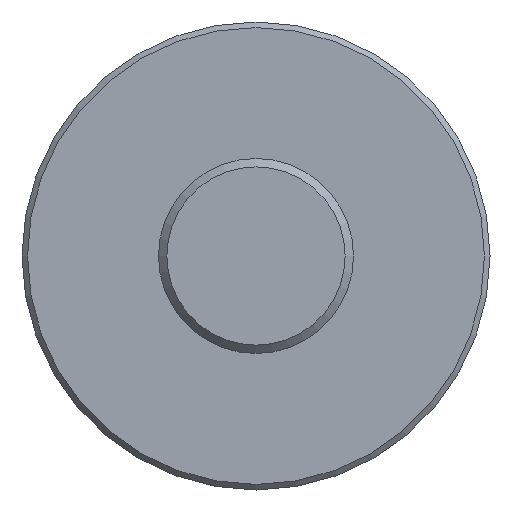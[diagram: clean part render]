
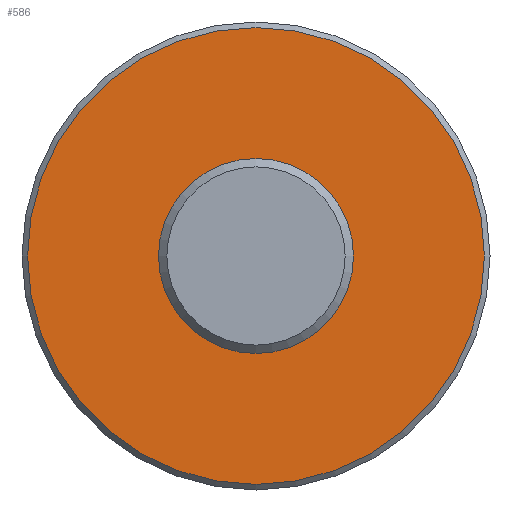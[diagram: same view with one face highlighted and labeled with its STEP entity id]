
A CAD part, front view. The second image highlights one B-rep face of the part: STEP entity #586.
In plain terms, the highlighted planar face has unit normal (0, -1, 0).
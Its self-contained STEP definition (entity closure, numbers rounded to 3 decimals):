
#6 = CARTESIAN_POINT ( 'NONE',  ( 0., 18., 4.1 ) ) ;
#11 = CARTESIAN_POINT ( 'NONE',  ( -4.2, 18., 0. ) ) ;
#17 = CARTESIAN_POINT ( 'NONE',  ( 0., 18., 0. ) ) ;
#56 = PLANE ( 'NONE',  #140 ) ;
#87 = EDGE_CURVE ( 'NONE', #549, #549, #112, .T. ) ;
#105 = DIRECTION ( 'NONE',  ( 0., 1., 0. ) ) ;
#106 = ORIENTED_EDGE ( 'NONE', *, *, #87, .T. ) ;
#112 = CIRCLE ( 'NONE', #185, 4.1 ) ;
#140 = AXIS2_PLACEMENT_3D ( 'NONE', #11, #105, #557 ) ;
#152 = FACE_OUTER_BOUND ( 'NONE', #415, .T. ) ;
#185 = AXIS2_PLACEMENT_3D ( 'NONE', #17, #387, #381 ) ;
#242 = EDGE_LOOP ( 'NONE', ( #451 ) ) ;
#288 = CARTESIAN_POINT ( 'NONE',  ( 0., 18., -1.75 ) ) ;
#298 = FACE_BOUND ( 'NONE', #242, .T. ) ;
#305 = EDGE_CURVE ( 'NONE', #363, #363, #420, .T. ) ;
#358 = AXIS2_PLACEMENT_3D ( 'NONE', #362, #361, #455 ) ;
#361 = DIRECTION ( 'NONE',  ( 0., -1., 0. ) ) ;
#362 = CARTESIAN_POINT ( 'NONE',  ( 0., 18., 0. ) ) ;
#363 = VERTEX_POINT ( 'NONE', #288 ) ;
#381 = DIRECTION ( 'NONE',  ( 0., 0., 1. ) ) ;
#387 = DIRECTION ( 'NONE',  ( 0., -1., 0. ) ) ;
#415 = EDGE_LOOP ( 'NONE', ( #106 ) ) ;
#420 = CIRCLE ( 'NONE', #358, 1.75 ) ;
#451 = ORIENTED_EDGE ( 'NONE', *, *, #305, .F. ) ;
#455 = DIRECTION ( 'NONE',  ( 0., 0., -1. ) ) ;
#549 = VERTEX_POINT ( 'NONE', #6 ) ;
#557 = DIRECTION ( 'NONE',  ( 0., 0., 1. ) ) ;
#586 = ADVANCED_FACE ( 'NONE', ( #152, #298 ), #56, .F. ) ;
